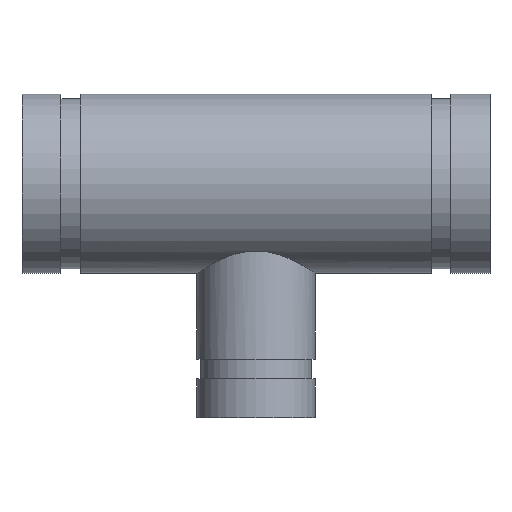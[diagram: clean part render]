
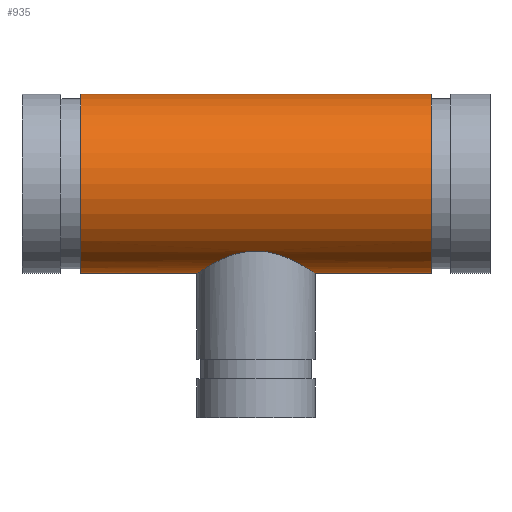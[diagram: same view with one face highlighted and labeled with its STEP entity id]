
A CAD part, top view. The second image highlights one B-rep face of the part: STEP entity #935.
In plain terms, the highlighted cylindrical face has radius 36.513 mm (diameter 73.025 mm), a full revolution.
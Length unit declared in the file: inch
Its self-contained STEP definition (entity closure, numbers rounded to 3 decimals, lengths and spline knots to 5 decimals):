
#61=FACE_BOUND('',#222,.T.);
#67=B_SPLINE_CURVE_WITH_KNOTS('',3,(#1807,#1808,#1809,#1810,#1811,#1812,
#1813,#1814,#1815,#1816,#1817,#1818,#1819,#1820,#1821,#1822,#1823,#1824),
 .UNSPECIFIED.,.F.,.F.,(4,2,2,2,2,2,2,2,4),(0.,0.47544,0.95088,
1.42632,1.90175,2.3722,2.84264,3.31308,
3.78352),.UNSPECIFIED.);
#68=B_SPLINE_CURVE_WITH_KNOTS('',3,(#1825,#1826,#1827,#1828,#1829,#1830,
#1831,#1832,#1833,#1834,#1835,#1836,#1837,#1838,#1839,#1840,#1841,#1842,
#1843,#1844,#1845,#1846,#1847,#1848,#1849,#1850,#1851,#1852,#1853,#1854,
#1855,#1856,#1857,#1858,#1859,#1860,#1861,#1862,#1863,#1864,#1865,#1866,
#1867,#1868,#1869,#1870,#1871,#1872,#1873,#1874),.UNSPECIFIED.,.F.,.F.,
(4,2,2,2,2,2,2,2,2,2,2,2,2,2,2,2,2,2,2,2,2,2,2,2,4),(3.78352,4.25396,
4.7244,5.19484,5.66528,6.14072,6.61616,
7.0916,7.56704,8.04248,8.51792,8.99335,
9.46879,9.93923,10.40968,10.88012,11.35056,
11.821,12.29144,12.76188,13.23232,13.70776,
14.1832,14.65864,15.13408),.UNSPECIFIED.);
#81=CYLINDRICAL_SURFACE('',#1104,1.4375);
#103=LINE('',#1804,#125);
#125=VECTOR('',#1432,1.4375);
#171=FACE_OUTER_BOUND('',#221,.T.);
#221=EDGE_LOOP('',(#814,#815,#816,#817));
#222=EDGE_LOOP('',(#818,#819));
#326=CIRCLE('',#1087,1.4375);
#337=CIRCLE('',#1103,1.4375);
#424=VERTEX_POINT('',#1772);
#435=VERTEX_POINT('',#1801);
#436=VERTEX_POINT('',#1805);
#437=VERTEX_POINT('',#1806);
#552=EDGE_CURVE('',#424,#424,#326,.T.);
#565=EDGE_CURVE('',#435,#435,#337,.T.);
#566=EDGE_CURVE('',#435,#424,#103,.T.);
#567=EDGE_CURVE('',#436,#437,#67,.T.);
#568=EDGE_CURVE('',#437,#436,#68,.T.);
#814=ORIENTED_EDGE('',*,*,#565,.T.);
#815=ORIENTED_EDGE('',*,*,#566,.T.);
#816=ORIENTED_EDGE('',*,*,#552,.T.);
#817=ORIENTED_EDGE('',*,*,#566,.F.);
#818=ORIENTED_EDGE('',*,*,#567,.T.);
#819=ORIENTED_EDGE('',*,*,#568,.T.);
#935=ADVANCED_FACE('',(#171,#61),#81,.T.);
#1087=AXIS2_PLACEMENT_3D('',#1773,#1394,#1395);
#1103=AXIS2_PLACEMENT_3D('',#1802,#1428,#1429);
#1104=AXIS2_PLACEMENT_3D('',#1803,#1430,#1431);
#1394=DIRECTION('center_axis',(-1.,0.,0.));
#1395=DIRECTION('ref_axis',(0.,-1.,0.));
#1428=DIRECTION('center_axis',(1.,0.,0.));
#1429=DIRECTION('ref_axis',(0.,-1.,0.));
#1430=DIRECTION('center_axis',(-1.,0.,0.));
#1431=DIRECTION('ref_axis',(0.,-1.,0.));
#1432=DIRECTION('',(1.,0.,0.));
#1772=CARTESIAN_POINT('',(2.812,1.4375,0.));
#1773=CARTESIAN_POINT('Origin',(2.812,0.,0.));
#1801=CARTESIAN_POINT('',(-2.812,1.4375,0.));
#1802=CARTESIAN_POINT('Origin',(-2.812,0.,0.));
#1803=CARTESIAN_POINT('Origin',(3.75,0.,0.));
#1804=CARTESIAN_POINT('',(3.75,1.4375,0.));
#1805=CARTESIAN_POINT('',(0.,-1.07884,-0.95));
#1806=CARTESIAN_POINT('',(-0.95,-1.4375,0.));
#1807=CARTESIAN_POINT('Ctrl Pts',(0.,-1.07884,
-0.95));
#1808=CARTESIAN_POINT('Ctrl Pts',(-0.06239,-1.07884,
-0.95));
#1809=CARTESIAN_POINT('Ctrl Pts',(-0.1258,-1.08443,
-0.94377));
#1810=CARTESIAN_POINT('Ctrl Pts',(-0.25017,-1.10577,
-0.91866));
#1811=CARTESIAN_POINT('Ctrl Pts',(-0.31115,-1.12148,
-0.8998));
#1812=CARTESIAN_POINT('Ctrl Pts',(-0.42709,-1.15901,
-0.85091));
#1813=CARTESIAN_POINT('Ctrl Pts',(-0.48217,-1.18081,
-0.82084));
#1814=CARTESIAN_POINT('Ctrl Pts',(-0.58384,-1.22584,
-0.75193));
#1815=CARTESIAN_POINT('Ctrl Pts',(-0.63042,-1.24904,
-0.71308));
#1816=CARTESIAN_POINT('Ctrl Pts',(-0.71264,-1.2925,
-0.63086));
#1817=CARTESIAN_POINT('Ctrl Pts',(-0.75142,-1.31444,
-0.5845));
#1818=CARTESIAN_POINT('Ctrl Pts',(-0.82047,-1.3551,
-0.4828));
#1819=CARTESIAN_POINT('Ctrl Pts',(-0.85076,-1.3738,
-0.42745));
#1820=CARTESIAN_POINT('Ctrl Pts',(-0.89992,-1.40478,
-0.31088));
#1821=CARTESIAN_POINT('Ctrl Pts',(-0.91884,-1.41707,
-0.24954));
#1822=CARTESIAN_POINT('Ctrl Pts',(-0.94388,-1.43343,
-0.12497));
#1823=CARTESIAN_POINT('Ctrl Pts',(-0.95,-1.4375,-0.06174));
#1824=CARTESIAN_POINT('Ctrl Pts',(-0.95,-1.4375,0.));
#1825=CARTESIAN_POINT('Ctrl Pts',(-0.95,-1.4375,0.));
#1826=CARTESIAN_POINT('Ctrl Pts',(-0.95,-1.4375,0.06174));
#1827=CARTESIAN_POINT('Ctrl Pts',(-0.94388,-1.43343,
0.12497));
#1828=CARTESIAN_POINT('Ctrl Pts',(-0.91884,-1.41707,
0.24954));
#1829=CARTESIAN_POINT('Ctrl Pts',(-0.89992,-1.40478,
0.31088));
#1830=CARTESIAN_POINT('Ctrl Pts',(-0.85076,-1.3738,
0.42745));
#1831=CARTESIAN_POINT('Ctrl Pts',(-0.82047,-1.3551,
0.4828));
#1832=CARTESIAN_POINT('Ctrl Pts',(-0.75142,-1.31444,
0.5845));
#1833=CARTESIAN_POINT('Ctrl Pts',(-0.71264,-1.2925,
0.63086));
#1834=CARTESIAN_POINT('Ctrl Pts',(-0.63042,-1.24904,
0.71308));
#1835=CARTESIAN_POINT('Ctrl Pts',(-0.58384,-1.22584,
0.75193));
#1836=CARTESIAN_POINT('Ctrl Pts',(-0.48217,-1.18081,
0.82084));
#1837=CARTESIAN_POINT('Ctrl Pts',(-0.42709,-1.15901,
0.85091));
#1838=CARTESIAN_POINT('Ctrl Pts',(-0.31115,-1.12148,
0.8998));
#1839=CARTESIAN_POINT('Ctrl Pts',(-0.25017,-1.10577,
0.91866));
#1840=CARTESIAN_POINT('Ctrl Pts',(-0.1258,-1.08443,
0.94377));
#1841=CARTESIAN_POINT('Ctrl Pts',(-0.06239,-1.07884,
0.95));
#1842=CARTESIAN_POINT('Ctrl Pts',(0.06239,-1.07884,
0.95));
#1843=CARTESIAN_POINT('Ctrl Pts',(0.1258,-1.08443,0.94377));
#1844=CARTESIAN_POINT('Ctrl Pts',(0.25017,-1.10577,0.91866));
#1845=CARTESIAN_POINT('Ctrl Pts',(0.31115,-1.12148,0.8998));
#1846=CARTESIAN_POINT('Ctrl Pts',(0.42709,-1.15901,0.85091));
#1847=CARTESIAN_POINT('Ctrl Pts',(0.48217,-1.18081,0.82084));
#1848=CARTESIAN_POINT('Ctrl Pts',(0.58384,-1.22584,0.75193));
#1849=CARTESIAN_POINT('Ctrl Pts',(0.63042,-1.24904,0.71308));
#1850=CARTESIAN_POINT('Ctrl Pts',(0.71264,-1.2925,0.63086));
#1851=CARTESIAN_POINT('Ctrl Pts',(0.75142,-1.31444,0.5845));
#1852=CARTESIAN_POINT('Ctrl Pts',(0.82047,-1.3551,0.4828));
#1853=CARTESIAN_POINT('Ctrl Pts',(0.85076,-1.3738,0.42745));
#1854=CARTESIAN_POINT('Ctrl Pts',(0.89992,-1.40478,0.31088));
#1855=CARTESIAN_POINT('Ctrl Pts',(0.91884,-1.41707,0.24954));
#1856=CARTESIAN_POINT('Ctrl Pts',(0.94388,-1.43343,0.12497));
#1857=CARTESIAN_POINT('Ctrl Pts',(0.95,-1.4375,0.06174));
#1858=CARTESIAN_POINT('Ctrl Pts',(0.95,-1.4375,-0.06174));
#1859=CARTESIAN_POINT('Ctrl Pts',(0.94388,-1.43343,-0.12497));
#1860=CARTESIAN_POINT('Ctrl Pts',(0.91884,-1.41707,-0.24954));
#1861=CARTESIAN_POINT('Ctrl Pts',(0.89992,-1.40478,-0.31088));
#1862=CARTESIAN_POINT('Ctrl Pts',(0.85076,-1.3738,-0.42745));
#1863=CARTESIAN_POINT('Ctrl Pts',(0.82047,-1.3551,-0.4828));
#1864=CARTESIAN_POINT('Ctrl Pts',(0.75142,-1.31444,-0.5845));
#1865=CARTESIAN_POINT('Ctrl Pts',(0.71264,-1.2925,-0.63086));
#1866=CARTESIAN_POINT('Ctrl Pts',(0.63042,-1.24904,-0.71308));
#1867=CARTESIAN_POINT('Ctrl Pts',(0.58384,-1.22584,-0.75193));
#1868=CARTESIAN_POINT('Ctrl Pts',(0.48217,-1.18081,-0.82084));
#1869=CARTESIAN_POINT('Ctrl Pts',(0.42709,-1.15901,-0.85091));
#1870=CARTESIAN_POINT('Ctrl Pts',(0.31115,-1.12148,-0.8998));
#1871=CARTESIAN_POINT('Ctrl Pts',(0.25017,-1.10577,-0.91866));
#1872=CARTESIAN_POINT('Ctrl Pts',(0.1258,-1.08443,-0.94377));
#1873=CARTESIAN_POINT('Ctrl Pts',(0.06239,-1.07884,
-0.95));
#1874=CARTESIAN_POINT('Ctrl Pts',(0.,-1.07884,
-0.95));
